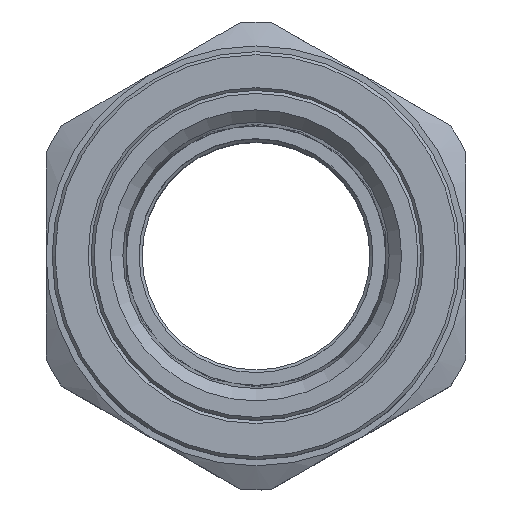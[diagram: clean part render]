
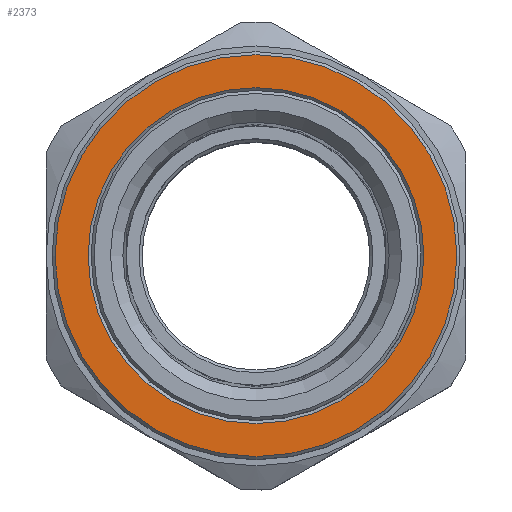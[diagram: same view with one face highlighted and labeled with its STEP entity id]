
A CAD part, top view. The second image highlights one B-rep face of the part: STEP entity #2373.
In plain terms, the highlighted planar face has unit normal (0, 0, 1).
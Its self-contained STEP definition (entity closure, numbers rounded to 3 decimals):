
#2342=CARTESIAN_POINT('',(28.0,0.,48.5));
#2343=VERTEX_POINT('',#2342);
#2344=CARTESIAN_POINT('',(0.0,0.0,48.5));
#2345=DIRECTION('',(0.0,0.0,1.0));
#2346=DIRECTION('',(-1.0,0.0,0.0));
#2347=AXIS2_PLACEMENT_3D('',#2344,#2345,#2346);
#2348=CIRCLE('',#2347,28.0);
#2349=EDGE_CURVE('',#2343,#2343,#2348,.T.);
#2354=CARTESIAN_POINT('',(0.,0.,48.5));
#2355=DIRECTION('',(0.0,0.0,1.0));
#2356=DIRECTION('',(1.0,0.0,0.0));
#2357=AXIS2_PLACEMENT_3D('',#2354,#2355,#2356);
#2358=PLANE('',#2357);
#2359=CARTESIAN_POINT('',(33.5,0.,48.5));
#2360=VERTEX_POINT('',#2359);
#2361=CARTESIAN_POINT('',(0.0,0.0,48.5));
#2362=DIRECTION('',(0.0,0.0,-1.0));
#2363=DIRECTION('',(-1.0,0.0,0.0));
#2364=AXIS2_PLACEMENT_3D('',#2361,#2362,#2363);
#2365=CIRCLE('',#2364,33.5);
#2366=EDGE_CURVE('',#2360,#2360,#2365,.T.);
#2367=ORIENTED_EDGE('',*,*,#2366,.F.);
#2368=EDGE_LOOP('',(#2367));
#2369=FACE_OUTER_BOUND('',#2368,.T.);
#2370=ORIENTED_EDGE('',*,*,#2349,.F.);
#2371=EDGE_LOOP('',(#2370));
#2372=FACE_BOUND('',#2371,.T.);
#2373=ADVANCED_FACE('',(#2369,#2372),#2358,.T.);
